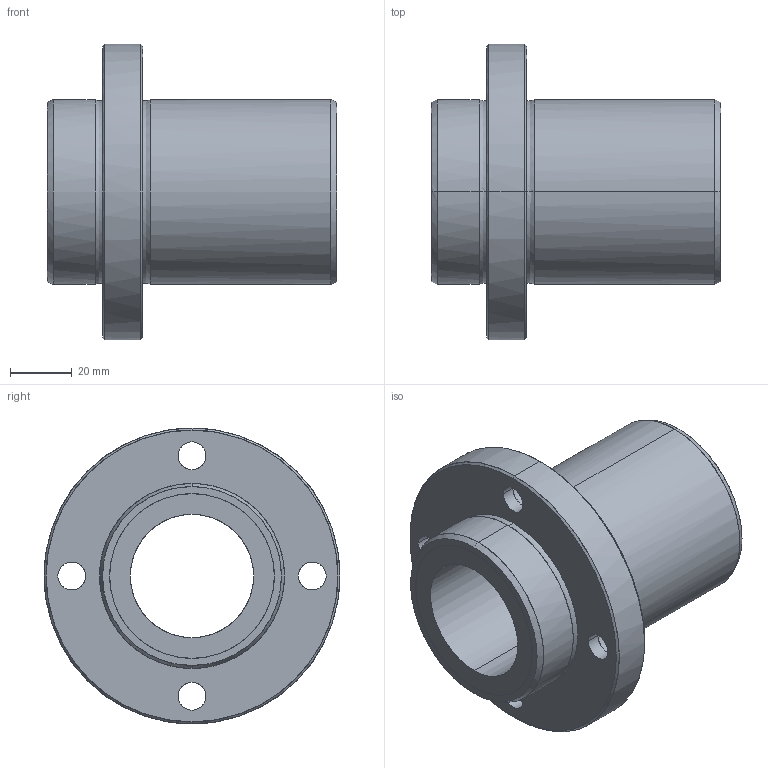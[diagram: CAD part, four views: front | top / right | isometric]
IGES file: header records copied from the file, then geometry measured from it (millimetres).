
Global section: file name: No Iges File Name specified; native system: AutoDesk Inventor R11.0; preprocessor: AutoDesk Inventor Iges Exporter R11.0; author: No Author specified; organization: No Organization specified; date: 20170921.132606; units: millimetre
Bounding box: 94 x 96 x 96 mm (x, y, z)
Surface area: 44099.8 mm2 (no closed solid volume)
Topology: 0 solids, 0 shells, 50 faces, 352 edges, 352 vertices
Faces by surface type: bspline 50
